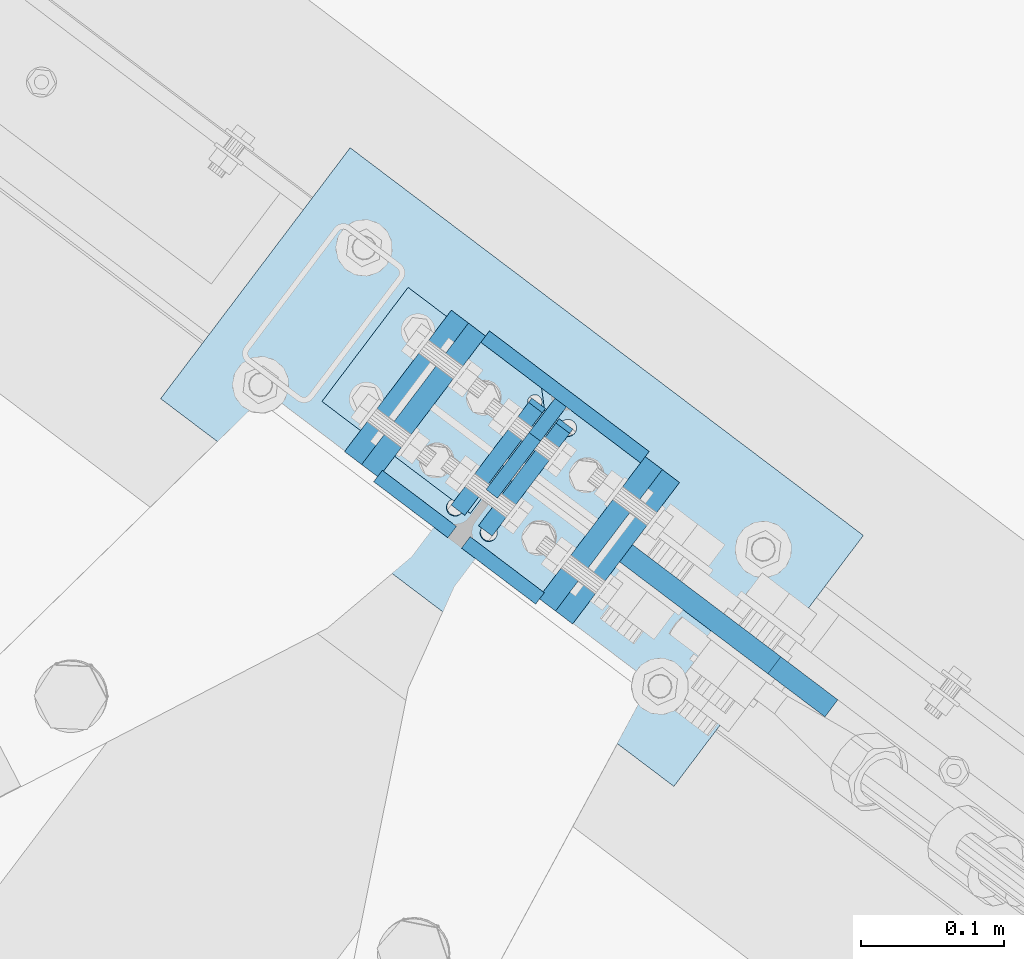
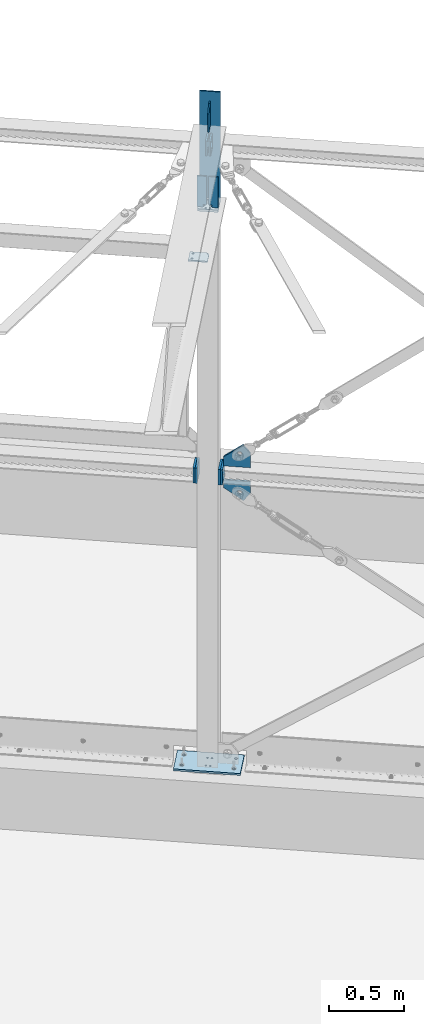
# One storey, part 60 of 476: 15 plates, 56 openings.
"""IFC2X3 building model written with IfcOpenShell, lengths in millimetres."""

from ifc_helpers import new_model, entity, si_unit, converted_unit, point, frame, frame_2d, origin, origin_with_axes, origin_2d_with_axis, place, context, project, spatial, polyline, circle_curve, line_curve, trimmed, segment, composite_curve, circle, outline, extrude, material, layer, layer_set, element, save


model = new_model("IFC2X3")

# Units and contexts
model_context = context("Model", 3, precision=1e-09, world=origin_with_axes())
ifc_project = project(units=[si_unit("LENGTHUNIT", "METRE", prefix="MILLI"), si_unit("AREAUNIT", "SQUARE_METRE"), si_unit("VOLUMEUNIT", "CUBIC_METRE"), converted_unit("PLANEANGLEUNIT", "DEGREE", entity("IfcPlaneAngleMeasure", 0.01745329), si_unit("PLANEANGLEUNIT", "RADIAN"), dimensions=[0, 0, 0, 0, 0, 0, 0])], contexts=[model_context])

# Site, building, storey
site_placement = place(None, origin_with_axes())
site = spatial("IfcSite", under=ifc_project, at=site_placement, Name="mKR Teilneubau & Sanierung BA1 - Ostfildern", CompositionType="ELEMENT")
building_placement = place(site_placement, origin_with_axes())
building = spatial("IfcBuilding", under=site, at=building_placement, Name="Struktur 1", CompositionType="ELEMENT")
storey_placement = place(building_placement, origin_with_axes())
storey = spatial("IfcBuildingStorey", under=building, at=storey_placement, Name="Default Storey", CompositionType="ELEMENT", Elevation=0.0)

# Plate, opening
ifc_material = material(Name="S235JR")
ifc_layer_1 = layer(ifc_material, 15.0)
ifc_layer_set_1 = layer_set([ifc_layer_1], Name="S235JR")
plate_1_placement = place(None, frame((13913.602549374, 7013.405691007, 2855.000000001), z_axis=(0.602734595, 0.797941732, 0.0), x_axis=(0.797941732, -0.602734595, 0.0)))
plate_1 = element("IfcPlate", 1, at=plate_1_placement, inside=storey, material=ifc_layer_set_1, Name="-", ObjectType="-", context=model_context, shape_type="SweptSolid", body=[
    extrude(outline(polyline([(0.0, 0.0), (179.999993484, 0.0), (179.999993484, 93.164694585), (133.615277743, 158.344892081), (-6.516e-06, 63.25917368), (0.0, 0.0)])), origin_with_axes(), (0.0, 0.0, -1.0), 15.0),
])
opening_1_placement = place(plate_1_placement, frame((91.921483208, 90.966259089, -15.5), z_axis=(0.0, 0.0, -1.0), x_axis=(-1.0, 0.0, 0.0)))
element("IfcOpeningElement", 2, at=opening_1_placement, cuts=plate_1, ObjectType="Opening", context=model_context, shape_type="SweptSolid", body=[
    extrude(circle(Radius=16.001, at=frame_2d((-16.001, 0.0), x_axis=(1.0, 0.0))), origin(), (0.0, 0.0, -1.0), 16.0),
])

plate_2_placement = place(None, frame((13904.561530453, 7001.43656502, 2969.000000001), z_axis=(-0.602734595, -0.797941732, 0.0), x_axis=(0.797941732, -0.602734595, 0.0)))
plate_2 = element("IfcPlate", 3, at=plate_2_placement, inside=storey, material=ifc_layer_set_1, Name="-", ObjectType="-", context=model_context, shape_type="SweptSolid", body=[
    extrude(outline(polyline([(0.0, 0.0), (179.999993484, 0.0), (179.999993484, 115.705558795), (130.034880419, 178.183457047), (-6.516e-06, 74.191361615), (0.0, 0.0)])), origin_with_axes(), (0.0, 0.0, -1.0), 15.0),
])
opening_2_placement = place(plate_2_placement, frame((92.158013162, 109.47067545, 0.5), z_axis=(0.0, 0.0, 1.0), x_axis=(1.0, 0.0, 0.0)))
element("IfcOpeningElement", 4, at=opening_2_placement, cuts=plate_2, ObjectType="Opening", context=model_context, shape_type="SweptSolid", body=[
    extrude(circle(Radius=16.001, at=frame_2d((16.001, 0.0), x_axis=(1.0, 0.0))), origin(), (0.0, 0.0, -1.0), 16.0),
])

# Plate, openings
ifc_layer_2 = layer(ifc_material, 10.0)
ifc_layer_set_2 = layer_set([ifc_layer_2], Name="S235JR")
plate_3_placement = place(None, frame((13819.112315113, 7045.929652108, 5888.279672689), z_axis=(-0.797941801, 0.602734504, 0.0), x_axis=(0.602734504, 0.797941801, 0.0)))
plate_3 = element("IfcPlate", 5, at=plate_3_placement, inside=storey, material=ifc_layer_set_2, Name="-", ObjectType="-", context=model_context, shape_type="SweptSolid", body=[
    extrude(outline(polyline([(0.0, 0.0), (80.0, 0.0), (80.0, 197.595559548), (0.0, 200.0), (0.0, 0.0)])), origin_with_axes(), (0.0, 0.0, 1.0), 10.0),
])
opening_3_placement = place(plate_3_placement, frame((0.0, 0.0, -0.01), z_axis=(0.0, 0.0, 1.0), x_axis=(1.0, 0.0, 0.0)))
element("IfcOpeningElement", 6, at=opening_3_placement, cuts=plate_3, ObjectType="Opening", context=model_context, shape_type="SweptSolid", body=[
    extrude(outline(polyline([(0.0, 0.0), (50.0, 0.0), (0.0, 50.0), (0.0, 0.0)])), origin(), (0.0, 0.0, 1.0), 10.02),
])
opening_4_placement = place(plate_3_placement, frame((0.0, 0.0, -0.01), z_axis=(0.0, 0.0, 1.0), x_axis=(1.0, 0.0, 0.0)))
element("IfcOpeningElement", 7, at=opening_4_placement, cuts=plate_3, ObjectType="Opening", context=model_context, shape_type="SweptSolid", body=[
    extrude(outline(polyline([(80.0, 197.595559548), (60.009027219, 198.196398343), (80.0, 177.595559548), (80.0, 197.595559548)])), origin(), (0.0, 0.0, 1.0), 10.02),
])

plate_4_placement = place(None, frame((13752.628333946, 7196.408267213, 4650.0), z_axis=(0.0, 0.0, -1.0), x_axis=(0.797941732, -0.602734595, 0.0)))
plate_4 = element("IfcPlate", 8, at=plate_4_placement, inside=storey, material=ifc_layer_set_2, Name="-", ObjectType="-", context=model_context, shape_type="SweptSolid", body=[
    extrude(outline(polyline([(5.0, 0.0), (135.0, 0.0), (135.0, 100.0), (5.0, 100.0), (5.0, 0.0)])), origin_with_axes(), (0.0, 0.0, 1.0), 10.0),
])
opening_5_placement = place(plate_4_placement, frame((0.0, 0.0, -0.01), z_axis=(0.0, 0.0, 1.0), x_axis=(1.0, 0.0, 0.0)))
element("IfcOpeningElement", 9, at=opening_5_placement, cuts=plate_4, ObjectType="Opening", context=model_context, shape_type="SweptSolid", body=[
    extrude(outline(composite_curve([segment(trimmed(line_curve((135.0, 0.0), (0.0, 1.0), 13.0), [point((135.0, 0.0))], [point((135.0, 13.0))], True, "CARTESIAN"), True, "CONTINUOUS"), segment(trimmed(circle_curve(frame_2d((122.0, 13.0), x_axis=(-1.0, 0.0)), 13.0), [point((135.0, 13.0))], [point((122.0, 0.0))], False, "CARTESIAN"), True, "CONTINUOUS"), segment(trimmed(line_curve((122.0, 0.0), (1.0, 0.0), 13.0), [point((122.0, 0.0))], [point((135.0, 0.0))], True, "CARTESIAN"), True, "CONTINUOUS")], self_intersect=False)), origin(), (0.0, 0.0, 1.0), 10.02),
])
opening_6_placement = place(plate_4_placement, frame((124.0, 10.5, -0.5), z_axis=(0.0, 0.0, 1.0), x_axis=(0.0, -1.0, 0.0)))
element("IfcOpeningElement", 10, at=opening_6_placement, cuts=plate_4, ObjectType="Opening", context=model_context, shape_type="SweptSolid", body=[
    extrude(circle(Radius=5.001, at=origin_2d_with_axis()), origin(), (0.0, 0.0, 1.0), 11.0),
])
opening_7_placement = place(plate_4_placement, frame((28.75, 50.0, 10.5), z_axis=(0.0, 0.0, -1.0), x_axis=(-1.0, 0.0, 0.0)))
element("IfcOpeningElement", 11, at=opening_7_placement, cuts=plate_4, ObjectType="Opening", context=model_context, shape_type="SweptSolid", body=[
    extrude(circle(Radius=7.001, at=frame_2d((0.0, 30.0), x_axis=(1.0, 0.0))), origin(), (0.0, 0.0, 1.0), 11.0),
])
opening_8_placement = place(plate_4_placement, frame((28.75, 50.0, 10.5), z_axis=(0.0, 0.0, -1.0), x_axis=(-1.0, 0.0, 0.0)))
element("IfcOpeningElement", 12, at=opening_8_placement, cuts=plate_4, ObjectType="Opening", context=model_context, shape_type="SweptSolid", body=[
    extrude(circle(Radius=7.001, at=frame_2d((0.0, -30.0), x_axis=(1.0, 0.0))), origin(), (0.0, 0.0, 1.0), 11.0),
])

plate_5_placement = place(None, frame((13716.051347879, 7291.084600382, 545.0), z_axis=(0.0, 0.0, -1.0), x_axis=(0.797941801, -0.602734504, 0.0)))
plate_5 = element("IfcPlate", 13, at=plate_5_placement, inside=storey, material=ifc_layer_set_1, Name="Baseplate", ObjectType="Baseplate", context=model_context, shape_type="SweptSolid", body=[
    extrude(outline(polyline([(0.0, 0.0), (450.0, 0.0), (450.0, 220.0), (0.0, 220.0), (0.0, 0.0)])), origin_with_axes(), (0.0, 0.0, 1.0), 15.0),
])
opening_9_placement = place(plate_5_placement, frame((50.0, 170.0, 15.5), z_axis=(0.0, 0.0, -1.0), x_axis=(1.0, 0.0, 0.0)))
element("IfcOpeningElement", 14, at=opening_9_placement, cuts=plate_5, ObjectType="Opening", context=model_context, shape_type="SweptSolid", body=[
    extrude(circle(Radius=11.001, at=frame_2d((350.0, 120.0), x_axis=(1.0, 0.0))), origin(), (0.0, 0.0, 1.0), 16.0),
])
opening_10_placement = place(plate_5_placement, frame((50.0, 170.0, 15.5), z_axis=(0.0, 0.0, -1.0), x_axis=(1.0, 0.0, 0.0)))
element("IfcOpeningElement", 15, at=opening_10_placement, cuts=plate_5, ObjectType="Opening", context=model_context, shape_type="SweptSolid", body=[
    extrude(circle(Radius=11.001, at=frame_2d((0.0, 120.0), x_axis=(1.0, 0.0))), origin(), (0.0, 0.0, 1.0), 16.0),
])
opening_11_placement = place(plate_5_placement, frame((50.0, 170.0, 15.5), z_axis=(0.0, 0.0, -1.0), x_axis=(1.0, 0.0, 0.0)))
element("IfcOpeningElement", 16, at=opening_11_placement, cuts=plate_5, ObjectType="Opening", context=model_context, shape_type="SweptSolid", body=[
    extrude(circle(Radius=11.001, at=frame_2d((350.0, 0.0), x_axis=(1.0, 0.0))), origin(), (0.0, 0.0, 1.0), 16.0),
])
opening_12_placement = place(plate_5_placement, frame((50.0, 170.0, 15.5), z_axis=(0.0, 0.0, -1.0), x_axis=(1.0, 0.0, 0.0)))
element("IfcOpeningElement", 17, at=opening_12_placement, cuts=plate_5, ObjectType="Opening", context=model_context, shape_type="SweptSolid", body=[
    extrude(circle(Radius=11.001, at=origin_2d_with_axis()), origin(), (0.0, 0.0, 1.0), 16.0),
])
opening_13_placement = place(plate_5_placement, frame((239.75, 156.0, 15.5), z_axis=(0.0, 0.0, -1.0), x_axis=(0.0, 1.0, 0.0)))
element("IfcOpeningElement", 18, at=opening_13_placement, cuts=plate_5, ObjectType="Opening", context=model_context, shape_type="SweptSolid", body=[
    extrude(circle(Radius=6.001, at=origin_2d_with_axis()), origin(), (0.0, 0.0, 1.0), 16.0),
])
opening_14_placement = place(plate_5_placement, frame((239.75, 64.0, 15.5), z_axis=(0.0, 0.0, -1.0), x_axis=(0.0, 1.0, 0.0)))
element("IfcOpeningElement", 19, at=opening_14_placement, cuts=plate_5, ObjectType="Opening", context=model_context, shape_type="SweptSolid", body=[
    extrude(circle(Radius=6.001, at=origin_2d_with_axis()), origin(), (0.0, 0.0, 1.0), 16.0),
])
opening_15_placement = place(plate_5_placement, frame((210.25, 64.0, 15.5), z_axis=(0.0, 0.0, -1.0), x_axis=(0.0, 1.0, 0.0)))
element("IfcOpeningElement", 20, at=opening_15_placement, cuts=plate_5, ObjectType="Opening", context=model_context, shape_type="SweptSolid", body=[
    extrude(circle(Radius=6.001, at=origin_2d_with_axis()), origin(), (0.0, 0.0, 1.0), 16.0),
])
opening_16_placement = place(plate_5_placement, frame((210.25, 156.0, 15.5), z_axis=(0.0, 0.0, -1.0), x_axis=(0.0, 1.0, 0.0)))
element("IfcOpeningElement", 21, at=opening_16_placement, cuts=plate_5, ObjectType="Opening", context=model_context, shape_type="SweptSolid", body=[
    extrude(circle(Radius=6.001, at=origin_2d_with_axis()), origin(), (0.0, 0.0, 1.0), 16.0),
])

plate_6_placement = place(None, frame((13749.492879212, 7127.968661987, 2912.000000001), z_axis=(0.797941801, -0.602734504, 0.0), x_axis=(0.0, 0.0, -1.0)))
plate_6 = element("IfcPlate", 22, at=plate_6_placement, inside=storey, material=ifc_layer_set_1, Name="Endplate#1", ObjectType="Endplate#1", context=model_context, shape_type="SweptSolid", body=[
    extrude(outline(polyline([(-62.0, -62.0), (62.0, -62.0), (62.0, 62.0), (-62.0, 62.0), (-62.0, -62.0)])), origin_with_axes(), (0.0, 0.0, 1.0), 15.0),
])
opening_17_placement = place(plate_6_placement, frame((37.0, -14.5, 15.5), z_axis=(0.0, 0.0, -1.0), x_axis=(1.0, 0.0, 0.0)))
element("IfcOpeningElement", 23, at=opening_17_placement, cuts=plate_6, ObjectType="Opening", context=model_context, shape_type="SweptSolid", body=[
    extrude(circle(Radius=6.001, at=origin_2d_with_axis()), origin(), (0.0, 0.0, 1.0), 16.0),
])
opening_18_placement = place(plate_6_placement, frame((-37.0, -14.5, 15.5), z_axis=(0.0, 0.0, -1.0), x_axis=(1.0, 0.0, 0.0)))
element("IfcOpeningElement", 24, at=opening_18_placement, cuts=plate_6, ObjectType="Opening", context=model_context, shape_type="SweptSolid", body=[
    extrude(circle(Radius=6.001, at=origin_2d_with_axis()), origin(), (0.0, 0.0, 1.0), 16.0),
])
opening_19_placement = place(plate_6_placement, frame((-37.0, 14.5, 15.5), z_axis=(0.0, 0.0, -1.0), x_axis=(1.0, 0.0, 0.0)))
element("IfcOpeningElement", 25, at=opening_19_placement, cuts=plate_6, ObjectType="Opening", context=model_context, shape_type="SweptSolid", body=[
    extrude(circle(Radius=6.001, at=origin_2d_with_axis()), origin(), (0.0, 0.0, 1.0), 16.0),
])
opening_20_placement = place(plate_6_placement, frame((37.0, 14.5, 15.5), z_axis=(0.0, 0.0, -1.0), x_axis=(1.0, 0.0, 0.0)))
element("IfcOpeningElement", 26, at=opening_20_placement, cuts=plate_6, ObjectType="Opening", context=model_context, shape_type="SweptSolid", body=[
    extrude(circle(Radius=6.001, at=origin_2d_with_axis()), origin(), (0.0, 0.0, 1.0), 16.0),
])
opening_21_placement = place(plate_6_placement, frame((0.0, 30.0, 15.5), z_axis=(0.0, 0.0, -1.0), x_axis=(-1.0, 0.0, 0.0)))
element("IfcOpeningElement", 27, at=opening_21_placement, cuts=plate_6, ObjectType="Opening", context=model_context, shape_type="SweptSolid", body=[
    extrude(circle(Radius=7.001, at=origin_2d_with_axis()), origin(), (0.0, 0.0, 1.0), 16.0),
])
opening_22_placement = place(plate_6_placement, frame((0.0, -30.0, 15.5), z_axis=(0.0, 0.0, -1.0), x_axis=(0.0, -1.0, 0.0)))
element("IfcOpeningElement", 28, at=opening_22_placement, cuts=plate_6, ObjectType="Opening", context=model_context, shape_type="SweptSolid", body=[
    extrude(circle(Radius=7.001, at=origin_2d_with_axis()), origin(), (0.0, 0.0, 1.0), 16.0),
])

plate_7_placement = place(None, frame((13773.431531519, 7109.887154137, 2912.000000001), z_axis=(-0.797941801, 0.602734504, 0.0), x_axis=(0.602734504, 0.797941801, 0.0)))
plate_7 = element("IfcPlate", 29, at=plate_7_placement, inside=storey, material=ifc_layer_set_1, Name="T-plate", ObjectType="T-plate", context=model_context, shape_type="SweptSolid", body=[
    extrude(outline(polyline([(-62.0, -62.0), (62.0, -62.0), (62.0, 62.0), (-62.0, 62.0), (-62.0, -62.0)])), origin_with_axes(), (0.0, 0.0, 1.0), 15.0),
])
opening_23_placement = place(plate_7_placement, frame((-30.000660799, 0.0, -0.5), z_axis=(0.0, 0.0, 1.0), x_axis=(-1.0, 0.0, 0.0)))
element("IfcOpeningElement", 30, at=opening_23_placement, cuts=plate_7, ObjectType="Opening", context=model_context, shape_type="SweptSolid", body=[
    extrude(circle(Radius=7.001, at=origin_2d_with_axis()), origin(), (0.0, 0.0, 1.0), 16.0),
])
opening_24_placement = place(plate_7_placement, frame((29.999339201, 0.0, -0.5), z_axis=(0.0, 0.0, 1.0), x_axis=(0.0, -1.0, 0.0)))
element("IfcOpeningElement", 31, at=opening_24_placement, cuts=plate_7, ObjectType="Opening", context=model_context, shape_type="SweptSolid", body=[
    extrude(circle(Radius=7.001, at=origin_2d_with_axis()), origin(), (0.0, 0.0, 1.0), 16.0),
])

plate_8_placement = place(None, frame((13909.081225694, 7007.421743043, 2912.000000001), z_axis=(-0.797941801, 0.602734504, 0.0), x_axis=(0.0, 0.0, -1.0)))
plate_8 = element("IfcPlate", 32, at=plate_8_placement, inside=storey, material=ifc_layer_set_1, Name="Endplate#1", ObjectType="Endplate#1", context=model_context, shape_type="SweptSolid", body=[
    extrude(outline(polyline([(-62.0, -62.0), (62.0, -62.0), (62.0, 62.0), (-62.0, 62.0), (-62.0, -62.0)])), origin_with_axes(), (0.0, 0.0, 1.0), 15.0),
])
opening_25_placement = place(plate_8_placement, frame((37.0, 14.5, 15.5), z_axis=(0.0, 0.0, -1.0), x_axis=(-1.0, 0.0, 0.0)))
element("IfcOpeningElement", 33, at=opening_25_placement, cuts=plate_8, ObjectType="Opening", context=model_context, shape_type="SweptSolid", body=[
    extrude(circle(Radius=6.001, at=origin_2d_with_axis()), origin(), (0.0, 0.0, 1.0), 16.0),
])
opening_26_placement = place(plate_8_placement, frame((-37.0, 14.5, 15.5), z_axis=(0.0, 0.0, -1.0), x_axis=(-1.0, 0.0, 0.0)))
element("IfcOpeningElement", 34, at=opening_26_placement, cuts=plate_8, ObjectType="Opening", context=model_context, shape_type="SweptSolid", body=[
    extrude(circle(Radius=6.001, at=origin_2d_with_axis()), origin(), (0.0, 0.0, 1.0), 16.0),
])
opening_27_placement = place(plate_8_placement, frame((-37.0, -14.5, 15.5), z_axis=(0.0, 0.0, -1.0), x_axis=(-1.0, 0.0, 0.0)))
element("IfcOpeningElement", 35, at=opening_27_placement, cuts=plate_8, ObjectType="Opening", context=model_context, shape_type="SweptSolid", body=[
    extrude(circle(Radius=6.001, at=origin_2d_with_axis()), origin(), (0.0, 0.0, 1.0), 16.0),
])
opening_28_placement = place(plate_8_placement, frame((37.0, -14.5, 15.5), z_axis=(0.0, 0.0, -1.0), x_axis=(-1.0, 0.0, 0.0)))
element("IfcOpeningElement", 36, at=opening_28_placement, cuts=plate_8, ObjectType="Opening", context=model_context, shape_type="SweptSolid", body=[
    extrude(circle(Radius=6.001, at=origin_2d_with_axis()), origin(), (0.0, 0.0, 1.0), 16.0),
])
opening_29_placement = place(plate_8_placement, frame((0.0, 30.0, 15.5), z_axis=(0.0, 0.0, -1.0), x_axis=(-1.0, 0.0, 0.0)))
element("IfcOpeningElement", 37, at=opening_29_placement, cuts=plate_8, ObjectType="Opening", context=model_context, shape_type="SweptSolid", body=[
    extrude(circle(Radius=7.001, at=origin_2d_with_axis()), origin(), (0.0, 0.0, 1.0), 16.0),
])
opening_30_placement = place(plate_8_placement, frame((0.0, -30.0, 15.5), z_axis=(0.0, 0.0, -1.0), x_axis=(0.0, -1.0, 0.0)))
element("IfcOpeningElement", 38, at=opening_30_placement, cuts=plate_8, ObjectType="Opening", context=model_context, shape_type="SweptSolid", body=[
    extrude(circle(Radius=7.001, at=origin_2d_with_axis()), origin(), (0.0, 0.0, 1.0), 16.0),
])

plate_9_placement = place(None, frame((13885.14338362, 7025.504323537, 2912.000000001), z_axis=(0.797941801, -0.602734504, 0.0), x_axis=(-0.602734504, -0.797941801, 0.0)))
plate_9 = element("IfcPlate", 39, at=plate_9_placement, inside=storey, material=ifc_layer_set_1, Name="T-plate", ObjectType="T-plate", context=model_context, shape_type="SweptSolid", body=[
    extrude(outline(polyline([(-62.0, -62.0), (62.0, -62.0), (62.0, 62.0), (-62.0, 62.0), (-62.0, -62.0)])), origin_with_axes(), (0.0, 0.0, 1.0), 15.0),
])
opening_31_placement = place(plate_9_placement, frame((-29.999316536, 0.0, -0.5), z_axis=(0.0, 0.0, 1.0), x_axis=(-1.0, 0.0, 0.0)))
element("IfcOpeningElement", 40, at=opening_31_placement, cuts=plate_9, ObjectType="Opening", context=model_context, shape_type="SweptSolid", body=[
    extrude(circle(Radius=7.001, at=origin_2d_with_axis()), origin(), (0.0, 0.0, 1.0), 16.0),
])
opening_32_placement = place(plate_9_placement, frame((30.000683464, 0.0, -0.5), z_axis=(0.0, 0.0, 1.0), x_axis=(0.0, -1.0, 0.0)))
element("IfcOpeningElement", 41, at=opening_32_placement, cuts=plate_9, ObjectType="Opening", context=model_context, shape_type="SweptSolid", body=[
    extrude(circle(Radius=7.001, at=origin_2d_with_axis()), origin(), (0.0, 0.0, 1.0), 16.0),
])

# Plate
plate_10_placement = place(None, frame((13919.197883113, 7070.588035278, 5095.440131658), z_axis=(0.602734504, 0.797941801, 0.0), x_axis=(-0.797941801, 0.602734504, 0.0)))
element("IfcPlate", 42, at=plate_10_placement, inside=storey, material=ifc_layer_set_2, Name="Coverplate", ObjectType="Coverplate", context=model_context, shape_type="SweptSolid", body=[
    extrude(outline(polyline([(0.0, 0.0), (140.0, 0.0), (140.0, 870.270938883), (0.0, 870.270938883), (0.0, 0.0)])), origin_with_axes(), (0.0, 0.0, 1.0), 10.0),
])

# Plate, openings
ifc_layer_3 = layer(ifc_material, 20.0)
ifc_layer_set_3 = layer_set([ifc_layer_3], Name="S235JR")
plate_11_placement = place(None, frame((13922.212915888, 7074.57954508, 5070.581445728), z_axis=(-0.018107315, -0.023971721, 0.999548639), x_axis=(-0.797941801, 0.602734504, 0.0)))
plate_11 = element("IfcPlate", 43, at=plate_11_placement, inside=storey, material=ifc_layer_set_3, Name="Endplate", ObjectType="Endplate", context=model_context, shape_type="SweptSolid", body=[
    extrude(outline(polyline([(0.0, 0.0), (140.0, 0.0), (140.0, 123.060058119), (0.0, 123.060058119), (0.0, 0.0)])), origin_with_axes(), (0.0, 0.0, 1.0), 20.0),
])
opening_33_placement = place(plate_11_placement, frame((55.25, 107.556219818, 20.5), z_axis=(0.0, 0.0, -1.0), x_axis=(0.0, -1.0, 0.0)))
element("IfcOpeningElement", 44, at=opening_33_placement, cuts=plate_11, ObjectType="Opening", context=model_context, shape_type="SweptSolid", body=[
    extrude(circle(Radius=6.001, at=origin_2d_with_axis()), origin(), (0.0, 0.0, 1.0), 21.0),
])
opening_34_placement = place(plate_11_placement, frame((55.25, 15.503838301, 20.5), z_axis=(0.0, 0.0, -1.0), x_axis=(0.0, -1.0, 0.0)))
element("IfcOpeningElement", 45, at=opening_34_placement, cuts=plate_11, ObjectType="Opening", context=model_context, shape_type="SweptSolid", body=[
    extrude(circle(Radius=6.001, at=origin_2d_with_axis()), origin(), (0.0, 0.0, 1.0), 21.0),
])
opening_35_placement = place(plate_11_placement, frame((84.75, 15.503838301, 20.5), z_axis=(0.0, 0.0, -1.0), x_axis=(0.0, -1.0, 0.0)))
element("IfcOpeningElement", 46, at=opening_35_placement, cuts=plate_11, ObjectType="Opening", context=model_context, shape_type="SweptSolid", body=[
    extrude(circle(Radius=6.001, at=origin_2d_with_axis()), origin(), (0.0, 0.0, 1.0), 21.0),
])
opening_36_placement = place(plate_11_placement, frame((84.75, 107.556219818, 20.5), z_axis=(0.0, 0.0, -1.0), x_axis=(0.0, -1.0, 0.0)))
element("IfcOpeningElement", 47, at=opening_36_placement, cuts=plate_11, ObjectType="Opening", context=model_context, shape_type="SweptSolid", body=[
    extrude(circle(Radius=6.001, at=origin_2d_with_axis()), origin(), (0.0, 0.0, 1.0), 21.0),
])
opening_37_placement = place(plate_11_placement, frame((107.999, 34.03, -0.5), z_axis=(0.0, 0.0, -1.0), x_axis=(-1.0, 0.0, 0.0)))
element("IfcOpeningElement", 48, at=opening_37_placement, cuts=plate_11, ObjectType="Opening", context=model_context, shape_type="SweptSolid", body=[
    extrude(circle(Radius=7.001, at=frame_2d((-7.001, 0.0), x_axis=(1.0, 0.0))), origin(), (0.0, 0.0, -1.0), 21.0),
])
opening_38_placement = place(plate_11_placement, frame((17.999, 34.03, -0.5), z_axis=(0.0, 0.0, -1.0), x_axis=(-1.0, 0.0, 0.0)))
element("IfcOpeningElement", 49, at=opening_38_placement, cuts=plate_11, ObjectType="Opening", context=model_context, shape_type="SweptSolid", body=[
    extrude(circle(Radius=7.001, at=frame_2d((-7.001, 0.0), x_axis=(1.0, 0.0))), origin(), (0.0, 0.0, -1.0), 21.0),
])
opening_39_placement = place(plate_11_placement, frame((107.999, 89.03, -0.5), z_axis=(0.0, 0.0, -1.0), x_axis=(-1.0, 0.0, 0.0)))
element("IfcOpeningElement", 50, at=opening_39_placement, cuts=plate_11, ObjectType="Opening", context=model_context, shape_type="SweptSolid", body=[
    extrude(circle(Radius=7.001, at=frame_2d((-7.001, 0.0), x_axis=(1.0, 0.0))), origin(), (0.0, 0.0, -1.0), 21.0),
])
opening_40_placement = place(plate_11_placement, frame((17.999, 89.03, -0.5), z_axis=(0.0, 0.0, -1.0), x_axis=(-1.0, 0.0, 0.0)))
element("IfcOpeningElement", 51, at=opening_40_placement, cuts=plate_11, ObjectType="Opening", context=model_context, shape_type="SweptSolid", body=[
    extrude(circle(Radius=7.001, at=frame_2d((-7.001, 0.0), x_axis=(1.0, 0.0))), origin(), (0.0, 0.0, -1.0), 21.0),
])

plate_12_placement = place(None, frame((13738.579090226, 7065.406176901, 5107.553116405), z_axis=(-0.602734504, -0.797941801, 0.0), x_axis=(0.797941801, -0.602734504, 0.0)))
plate_12 = element("IfcPlate", 52, at=plate_12_placement, inside=storey, material=ifc_layer_set_2, Name="Stiffener#2", ObjectType="Stiffener#2", context=model_context, shape_type="SweptSolid", body=[
    extrude(outline(polyline([(0.0, 0.0), (65.0, 0.0), (65.0, 250.0), (0.0, 250.0), (0.0, 0.0)])), origin_with_axes(), (0.0, 0.0, 1.0), 10.0),
])
opening_41_placement = place(plate_12_placement, frame((0.0, 0.0, -0.01), z_axis=(0.0, 0.0, 1.0), x_axis=(1.0, 0.0, 0.0)))
element("IfcOpeningElement", 53, at=opening_41_placement, cuts=plate_12, ObjectType="Opening", context=model_context, shape_type="SweptSolid", body=[
    extrude(outline(composite_curve([segment(trimmed(line_curve((65.0, 0.0), (0.0, 1.0), 25.0), [point((65.0, 0.0))], [point((65.0, 25.0))], True, "CARTESIAN"), True, "CONTINUOUS"), segment(trimmed(circle_curve(frame_2d((40.0, 25.0), x_axis=(-1.0, 0.0)), 25.0), [point((65.0, 25.0))], [point((40.0, 0.0))], False, "CARTESIAN"), True, "CONTINUOUS"), segment(trimmed(line_curve((40.0, 0.0), (1.0, 0.0), 25.0), [point((40.0, 0.0))], [point((65.0, 0.0))], True, "CARTESIAN"), True, "CONTINUOUS")], self_intersect=False)), origin(), (0.0, 0.0, 1.0), 10.02),
])
opening_42_placement = place(plate_12_placement, frame((41.0, 22.198767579, -0.5), z_axis=(0.0, 0.0, 1.0), x_axis=(0.0, 1.0, 0.0)))
element("IfcOpeningElement", 54, at=opening_42_placement, cuts=plate_12, ObjectType="Opening", context=model_context, shape_type="SweptSolid", body=[
    extrude(circle(Radius=7.001, at=frame_2d((-7.0, -7.0), x_axis=(1.0, 0.0))), origin(), (0.0, 0.0, 1.0), 11.0),
])

plate_13_placement = place(None, frame((13800.020608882, 7018.995620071, 5107.553116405), z_axis=(-0.602734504, -0.797941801, 0.0), x_axis=(0.797941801, -0.602734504, 0.0)))
plate_13 = element("IfcPlate", 55, at=plate_13_placement, inside=storey, material=ifc_layer_set_2, Name="Stiffener#2", ObjectType="Stiffener#2", context=model_context, shape_type="SweptSolid", body=[
    extrude(outline(polyline([(0.0, 0.0), (65.0, 0.0), (65.0, 250.0), (0.0, 250.0), (0.0, 0.0)])), origin_with_axes(), (0.0, 0.0, 1.0), 10.0),
])
opening_43_placement = place(plate_13_placement, frame((0.0, 0.0, -0.01), z_axis=(0.0, 0.0, 1.0), x_axis=(1.0, 0.0, 0.0)))
element("IfcOpeningElement", 56, at=opening_43_placement, cuts=plate_13, ObjectType="Opening", context=model_context, shape_type="SweptSolid", body=[
    extrude(outline(composite_curve([segment(trimmed(line_curve((0.0, 0.0), (1.0, 0.0), 25.0), [point((0.0, 0.0))], [point((25.0, 0.0))], True, "CARTESIAN"), True, "CONTINUOUS"), segment(trimmed(circle_curve(frame_2d((25.0, 25.0), x_axis=(-1.0, 0.0)), 25.0), [point((25.0, 0.0))], [point((0.0, 25.0))], False, "CARTESIAN"), True, "CONTINUOUS"), segment(trimmed(line_curve((0.0, 25.0), (0.0, -1.0), 25.0), [point((0.0, 25.0))], [point((0.0, 0.0))], True, "CARTESIAN"), True, "CONTINUOUS")], self_intersect=False)), origin(), (0.0, 0.0, 1.0), 10.02),
])
opening_44_placement = place(plate_13_placement, frame((24.0, 22.198767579, -0.5), z_axis=(0.0, 0.0, 1.0), x_axis=(0.0, 1.0, 0.0)))
element("IfcOpeningElement", 57, at=opening_44_placement, cuts=plate_13, ObjectType="Opening", context=model_context, shape_type="SweptSolid", body=[
    extrude(circle(Radius=7.001, at=frame_2d((-7.0, 7.0), x_axis=(1.0, 0.0))), origin(), (0.0, 0.0, 1.0), 11.0),
])

ifc_layer_4 = layer(ifc_material, 12.0)
ifc_layer_set_4 = layer_set([ifc_layer_4], Name="S235JR")
plate_14_placement = place(None, frame((13860.062859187, 7098.483721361, 5635.311074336), z_axis=(0.797941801, -0.602734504, 0.0), x_axis=(-0.602462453, -0.797581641, -0.030041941)))
plate_14 = element("IfcPlate", 58, at=plate_14_placement, inside=storey, material=ifc_layer_set_4, Name="Endplate", ObjectType="Endplate", context=model_context, shape_type="SweptSolid", body=[
    extrude(outline(polyline([(0.0, 0.0), (90.0, 0.0), (90.0, 124.0), (0.0, 124.0), (0.0, 0.0)])), origin_with_axes(), (0.0, 0.0, 1.0), 12.0),
])
opening_45_placement = place(plate_14_placement, frame((70.0, 62.0, -0.5), z_axis=(0.0, 0.0, 1.0), x_axis=(0.0, -1.0, 0.0)))
element("IfcOpeningElement", 59, at=opening_45_placement, cuts=plate_14, ObjectType="Opening", context=model_context, shape_type="SweptSolid", body=[
    extrude(circle(Radius=7.001, at=origin_2d_with_axis()), origin(), (0.0, 0.0, 1.0), 13.0),
])
opening_46_placement = place(plate_14_placement, frame((20.0, 62.0, -0.5), z_axis=(0.0, 0.0, 1.0), x_axis=(0.0, -1.0, 0.0)))
element("IfcOpeningElement", 60, at=opening_46_placement, cuts=plate_14, ObjectType="Opening", context=model_context, shape_type="SweptSolid", body=[
    extrude(circle(Radius=7.001, at=origin_2d_with_axis()), origin(), (0.0, 0.0, 1.0), 13.0),
])
opening_47_placement = place(plate_14_placement, frame((59.5, 99.0, -0.5), z_axis=(0.0, 0.0, 1.0), x_axis=(0.0, -1.0, 0.0)))
element("IfcOpeningElement", 61, at=opening_47_placement, cuts=plate_14, ObjectType="Opening", context=model_context, shape_type="SweptSolid", body=[
    extrude(circle(Radius=6.001, at=origin_2d_with_axis()), origin(), (0.0, 0.0, 1.0), 13.0),
])
opening_48_placement = place(plate_14_placement, frame((59.5, 25.0, -0.5), z_axis=(0.0, 0.0, 1.0), x_axis=(0.0, -1.0, 0.0)))
element("IfcOpeningElement", 62, at=opening_48_placement, cuts=plate_14, ObjectType="Opening", context=model_context, shape_type="SweptSolid", body=[
    extrude(circle(Radius=6.001, at=origin_2d_with_axis()), origin(), (0.0, 0.0, 1.0), 13.0),
])
opening_49_placement = place(plate_14_placement, frame((30.5, 25.0, -0.5), z_axis=(0.0, 0.0, 1.0), x_axis=(0.0, -1.0, 0.0)))
element("IfcOpeningElement", 63, at=opening_49_placement, cuts=plate_14, ObjectType="Opening", context=model_context, shape_type="SweptSolid", body=[
    extrude(circle(Radius=6.001, at=origin_2d_with_axis()), origin(), (0.0, 0.0, 1.0), 13.0),
])
opening_50_placement = place(plate_14_placement, frame((30.5, 99.0, -0.5), z_axis=(0.0, 0.0, 1.0), x_axis=(0.0, -1.0, 0.0)))
element("IfcOpeningElement", 64, at=opening_50_placement, cuts=plate_14, ObjectType="Opening", context=model_context, shape_type="SweptSolid", body=[
    extrude(circle(Radius=6.001, at=origin_2d_with_axis()), origin(), (0.0, 0.0, 1.0), 13.0),
])

plate_15_placement = place(None, frame((13796.265939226, 7033.934190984, 5632.607299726), z_axis=(-0.797941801, 0.602734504, 0.0), x_axis=(0.602462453, 0.797581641, 0.030041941)))
plate_15 = element("IfcPlate", 65, at=plate_15_placement, inside=storey, material=ifc_layer_set_4, Name="Endplate", ObjectType="Endplate", context=model_context, shape_type="SweptSolid", body=[
    extrude(outline(polyline([(0.0, 0.0), (90.0, 0.0), (90.0, 124.0), (0.0, 124.0), (0.0, 0.0)])), origin_with_axes(), (0.0, 0.0, 1.0), 12.0),
])
opening_51_placement = place(plate_15_placement, frame((69.99999592, 62.0, 12.5), z_axis=(0.0, 0.0, -1.0), x_axis=(0.0, -1.0, 0.0)))
element("IfcOpeningElement", 66, at=opening_51_placement, cuts=plate_15, ObjectType="Opening", context=model_context, shape_type="SweptSolid", body=[
    extrude(circle(Radius=7.001, at=origin_2d_with_axis()), origin(), (0.0, 0.0, 1.0), 13.0),
])
opening_52_placement = place(plate_15_placement, frame((19.99999592, 62.0, 12.5), z_axis=(0.0, 0.0, -1.0), x_axis=(0.0, -1.0, 0.0)))
element("IfcOpeningElement", 67, at=opening_52_placement, cuts=plate_15, ObjectType="Opening", context=model_context, shape_type="SweptSolid", body=[
    extrude(circle(Radius=7.001, at=origin_2d_with_axis()), origin(), (0.0, 0.0, 1.0), 13.0),
])
opening_53_placement = place(plate_15_placement, frame((30.5, 99.0, -0.5), z_axis=(0.0, 0.0, 1.0), x_axis=(0.0, 1.0, 0.0)))
element("IfcOpeningElement", 68, at=opening_53_placement, cuts=plate_15, ObjectType="Opening", context=model_context, shape_type="SweptSolid", body=[
    extrude(circle(Radius=6.001, at=origin_2d_with_axis()), origin(), (0.0, 0.0, 1.0), 13.0),
])
opening_54_placement = place(plate_15_placement, frame((30.5, 25.0, -0.5), z_axis=(0.0, 0.0, 1.0), x_axis=(0.0, 1.0, 0.0)))
element("IfcOpeningElement", 69, at=opening_54_placement, cuts=plate_15, ObjectType="Opening", context=model_context, shape_type="SweptSolid", body=[
    extrude(circle(Radius=6.001, at=origin_2d_with_axis()), origin(), (0.0, 0.0, 1.0), 13.0),
])
opening_55_placement = place(plate_15_placement, frame((59.5, 25.0, -0.5), z_axis=(0.0, 0.0, 1.0), x_axis=(0.0, 1.0, 0.0)))
element("IfcOpeningElement", 70, at=opening_55_placement, cuts=plate_15, ObjectType="Opening", context=model_context, shape_type="SweptSolid", body=[
    extrude(circle(Radius=6.001, at=origin_2d_with_axis()), origin(), (0.0, 0.0, 1.0), 13.0),
])
opening_56_placement = place(plate_15_placement, frame((59.5, 99.0, -0.5), z_axis=(0.0, 0.0, 1.0), x_axis=(0.0, 1.0, 0.0)))
element("IfcOpeningElement", 71, at=opening_56_placement, cuts=plate_15, ObjectType="Opening", context=model_context, shape_type="SweptSolid", body=[
    extrude(circle(Radius=6.001, at=origin_2d_with_axis()), origin(), (0.0, 0.0, 1.0), 13.0),
])

save(model, "model.ifc")
